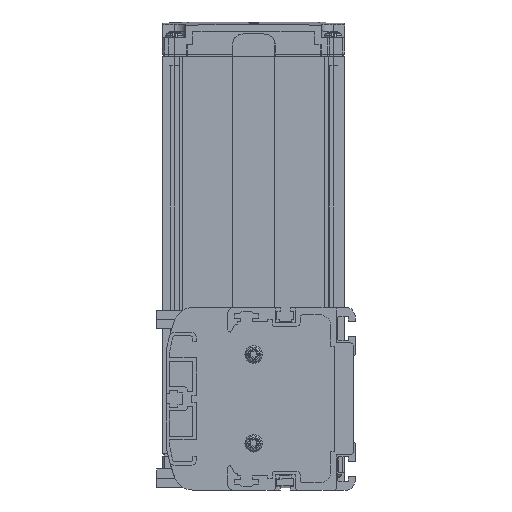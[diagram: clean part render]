
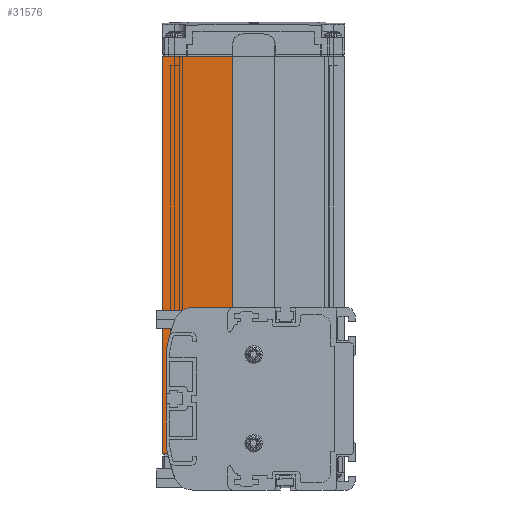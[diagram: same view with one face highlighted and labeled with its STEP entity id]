
A CAD part, left-side view. The second image highlights one B-rep face of the part: STEP entity #31576.
In plain terms, the highlighted planar face has unit normal (-1, 0, 0).
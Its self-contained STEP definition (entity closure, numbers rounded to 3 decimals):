
#4918=CARTESIAN_POINT('',(3.,79.,19.823));
#4919=DIRECTION('',(1.,0.,0.));
#4920=DIRECTION('',(0.,1.,0.));
#4921=AXIS2_PLACEMENT_3D('',#4918,#4919,#4920);
#4931=DIRECTION('',(0.,0.,1.));
#4932=VECTOR('',#4931,39.645);
#4933=CARTESIAN_POINT('',(3.,81.,-19.823));
#4934=LINE('',#4933,#4932);
#4971=CARTESIAN_POINT('',(3.,79.,-19.823));
#4972=DIRECTION('',(-1.,0.,0.));
#4973=DIRECTION('',(0.,1.,0.));
#4974=AXIS2_PLACEMENT_3D('',#4971,#4972,#4973);
#4985=CARTESIAN_POINT('',(3.,2.235,-6.));
#4986=DIRECTION('',(1.,0.,0.));
#4987=DIRECTION('',(0.,0.976,-0.219));
#4988=AXIS2_PLACEMENT_3D('',#4985,#4986,#4987);
#5320=CARTESIAN_POINT('',(3.,2.235,6.));
#5321=DIRECTION('',(1.,0.,0.));
#5322=DIRECTION('',(0.,0.984,0.177));
#5323=AXIS2_PLACEMENT_3D('',#5320,#5321,#5322);
#5333=DIRECTION('',(0.,-1.,0.));
#5334=VECTOR('',#5333,2.203);
#5335=CARTESIAN_POINT('',(3.,82.5,-23.5));
#5336=LINE('',#5335,#5334);
#5337=DIRECTION('',(0.,0.,-1.));
#5338=VECTOR('',#5337,170.);
#5339=CARTESIAN_POINT('',(3.,82.5,146.5));
#5340=LINE('',#5339,#5338);
#5341=DIRECTION('',(0.,1.,0.));
#5342=VECTOR('',#5341,29.9);
#5343=CARTESIAN_POINT('',(3.,52.6,146.5));
#5344=LINE('',#5343,#5342);
#5345=DIRECTION('',(0.,-1.,0.));
#5346=VECTOR('',#5345,17.155);
#5347=CARTESIAN_POINT('',(3.,69.755,39.));
#5348=LINE('',#5347,#5346);
#15235=DIRECTION('',(0.,0.,1.));
#15236=VECTOR('',#15235,107.5);
#15237=CARTESIAN_POINT('',(3.,52.6,39.));
#15238=LINE('',#15237,#15236);
#15271=CARTESIAN_POINT('',(3.,69.755,31.));
#15272=DIRECTION('',(-1.,0.,0.));
#15273=DIRECTION('',(0.,0.,1.));
#15274=AXIS2_PLACEMENT_3D('',#15271,#15272,#15273);
#19468=CARTESIAN_POINT('',(3.,82.5,-23.5));
#19470=VERTEX_POINT('',#19468);
#19565=CARTESIAN_POINT('',(3.,52.6,146.5));
#19566=VERTEX_POINT('',#19565);
#19567=CARTESIAN_POINT('',(3.,82.5,146.5));
#19568=VERTEX_POINT('',#19567);
#23946=CARTESIAN_POINT('',(3.,69.755,39.));
#23947=CARTESIAN_POINT('',(3.,52.6,39.));
#23948=VERTEX_POINT('',#23946);
#23949=VERTEX_POINT('',#23947);
#23950=CARTESIAN_POINT('',(3.,80.297,-23.5));
#23952=VERTEX_POINT('',#23950);
#23974=CARTESIAN_POINT('',(3.,81.,-19.823));
#23975=CARTESIAN_POINT('',(3.,80.968,-20.177));
#23976=VERTEX_POINT('',#23974);
#23977=VERTEX_POINT('',#23975);
#23990=CARTESIAN_POINT('',(3.,77.257,33.778));
#23991=VERTEX_POINT('',#23990);
#23992=CARTESIAN_POINT('',(3.,80.968,20.177));
#23993=VERTEX_POINT('',#23992);
#23994=CARTESIAN_POINT('',(3.,81.,19.823));
#23995=VERTEX_POINT('',#23994);
#31552=CARTESIAN_POINT('',(3.,67.55,61.5));
#31553=DIRECTION('',(1.,0.,0.));
#31554=DIRECTION('',(0.,-1.,0.));
#31555=AXIS2_PLACEMENT_3D('',#31552,#31553,#31554);
#31556=PLANE('',#31555);
#31558=ORIENTED_EDGE('',*,*,#31557,.F.);
#31560=ORIENTED_EDGE('',*,*,#31559,.T.);
#31561=ORIENTED_EDGE('',*,*,#31539,.F.);
#31562=ORIENTED_EDGE('',*,*,#30967,.F.);
#31563=ORIENTED_EDGE('',*,*,#30982,.F.);
#31564=ORIENTED_EDGE('',*,*,#31021,.T.);
#31565=ORIENTED_EDGE('',*,*,#31042,.F.);
#31567=ORIENTED_EDGE('',*,*,#31566,.F.);
#31569=ORIENTED_EDGE('',*,*,#31568,.F.);
#31571=ORIENTED_EDGE('',*,*,#31570,.F.);
#31573=ORIENTED_EDGE('',*,*,#31572,.F.);
#31574=EDGE_LOOP('',(#31558,#31560,#31561,#31562,#31563,#31564,#31565,#31567,
#31569,#31571,#31573));
#31575=FACE_OUTER_BOUND('',#31574,.F.);
#31576=ADVANCED_FACE('',(#31575),#31556,.F.);
#4922=CIRCLE('',#4921,2.);
#4975=CIRCLE('',#4974,2.);
#4989=CIRCLE('',#4988,80.);
#5324=CIRCLE('',#5323,80.);
#15275=CIRCLE('',#15274,8.);
#30967=EDGE_CURVE('',#23995,#23993,#4922,.T.);
#30982=EDGE_CURVE('',#23976,#23995,#4934,.T.);
#31021=EDGE_CURVE('',#23976,#23977,#4975,.T.);
#31042=EDGE_CURVE('',#23952,#23977,#4989,.T.);
#31539=EDGE_CURVE('',#23993,#23991,#5324,.T.);
#31557=EDGE_CURVE('',#23948,#23949,#5348,.T.);
#31559=EDGE_CURVE('',#23948,#23991,#15275,.T.);
#31566=EDGE_CURVE('',#19470,#23952,#5336,.T.);
#31568=EDGE_CURVE('',#19568,#19470,#5340,.T.);
#31570=EDGE_CURVE('',#19566,#19568,#5344,.T.);
#31572=EDGE_CURVE('',#23949,#19566,#15238,.T.);
